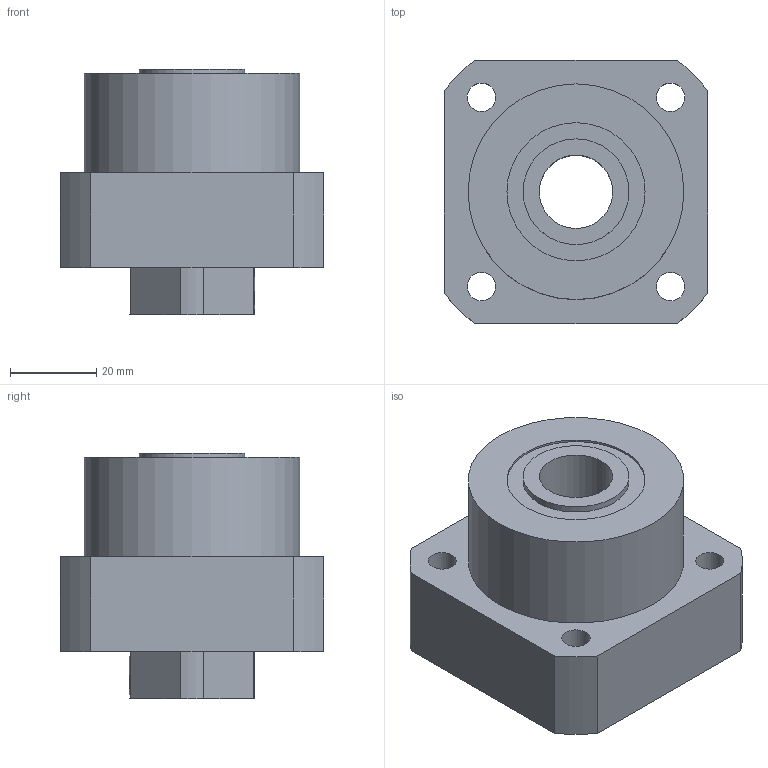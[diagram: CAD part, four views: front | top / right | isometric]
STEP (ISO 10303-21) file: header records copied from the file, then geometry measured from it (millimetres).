
FILE_DESCRIPTION(/* description */ (''),/* implementation_level */ '2;1');
FILE_NAME(/* name */ 'C:\Users\tenki620635\Desktop\官網\圖面\軸承座\3D\setp檔\FK17-Atype.stp',/* time_stamp */ '2020-12-18T19:55:04+08:00',/* author */ ('tenki620635'),/* organization */ (''),/* preprocessor_version */ 'ST-DEVELOPER v15.2',/* originating_system */ 'Autodesk Inventor 2014',/* authorisation */ '');
FILE_SCHEMA (('AUTOMOTIVE_DESIGN { 1 0 10303 214 3 1 1 }'));
Length unit declared in the file: millimetre
Products named in the file (1): FK17-Atype
Bounding box: 61 x 61 x 57 mm (x, y, z)
Volume: 112146.6 mm3; surface area: 22652.9 mm2
Topology: 1 solids, 1 shells, 46 faces, 105 edges, 71 vertices
Faces by surface type: cylinder 25, plane 21
Full cylindrical faces by diameter (mm): 3.242 x2, 6.6 x4, 11 x4, 17 x1, 21 x1, 24.5 x2, 32 x2, 50 x1
Entity records: 1375 total; most frequent: CARTESIAN_POINT 335, DIRECTION 218, ORIENTED_EDGE 168, AXIS2_PLACEMENT_3D 93, EDGE_LOOP 88, EDGE_CURVE 84, VERTEX_POINT 68, FACE_BOUND 54
